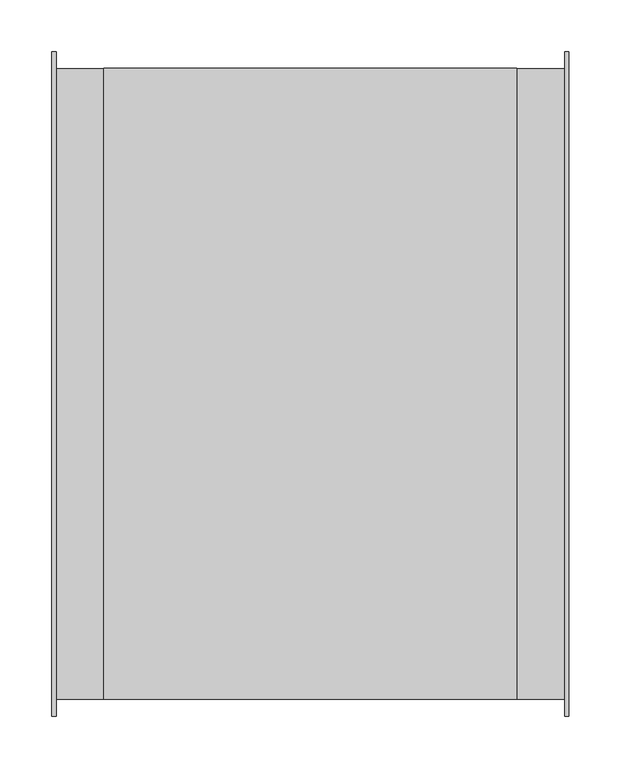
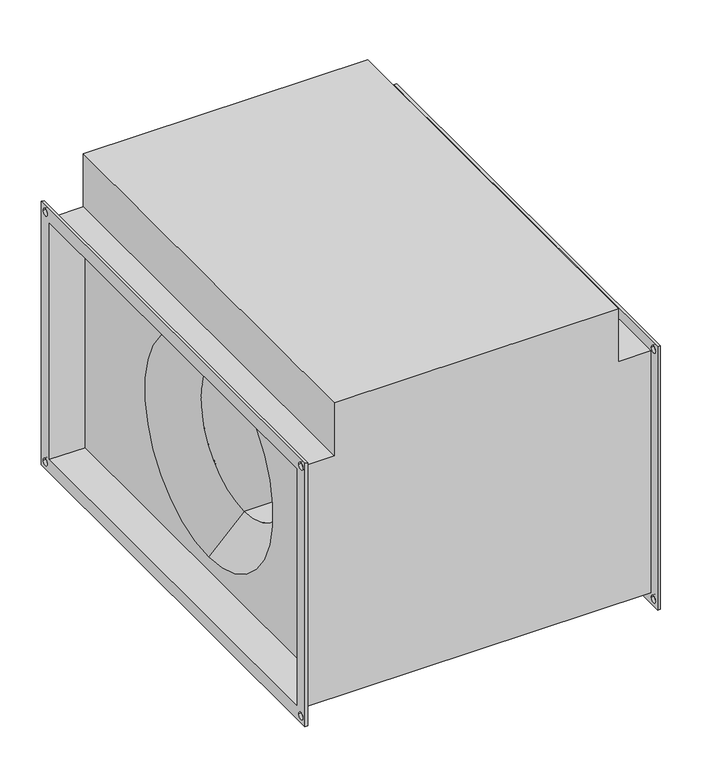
"""IFC4 building model written with IfcOpenShell, lengths in millimetres: proxy geometry, СВ_Вентилятор_КанальныйПрямоугольный_200-1000_SVPS : SVPS-600x350/31.2D."""

from ifc_helpers import new_model, si_unit, frame, origin, place, context, project, spatial, polyline, circle_curve, source, transform, mapped, element, save
from ifc_brep_helpers import plane_surface, revolved_surface, advanced_brep


def mechanical_equipment_56067d51(model_context):
    return source(origin(), model_context, "Body", "AdvancedBrep", [
        advanced_brep(
        [(-245.0, -304.0, 179.0), (-199.0, -304.0, 179.0), (-199.0, 304.0, 179.0), (-245.0, 304.0, 179.0), (199.0, 304.0, 258.0), (199.0, -304.0, 258.0), (199.0, -304.0, 179.0), (199.0, 304.0, 179.0), (199.0, 300.0, -175.0), (199.0, 300.0, 175.0), (199.0, -300.0, 175.0), (199.0, -300.0, -175.0), (199.0, 0.0, 155.0), (199.0, 0.0, -155.0), (-199.0, 300.0, 175.0), (-199.0, 300.0, -175.0), (-199.0, -300.0, -175.0), (-199.0, -300.0, 175.0), (-199.0, 0.0, -155.0), (-199.0, 0.0, 155.0), (-199.0, -304.0, 258.0), (-199.0, 304.0, 258.0), (-245.0, -304.0, -179.0), (245.0, -304.0, -179.0), (245.0, -304.0, 179.0), (-245.0, 304.0, -179.0), (245.0, 304.0, -179.0), (245.0, 304.0, 179.0), (149.0, 0.0, -105.0), (149.0, 0.0, 105.0), (-149.0, 0.0, 105.0), (-149.0, 0.0, -105.0), (-249.0, -320.0, 195.0), (-249.0, 320.0, 195.0), (-249.0, 320.0, -195.0), (-249.0, -320.0, -195.0), (-249.0, -300.0, 175.0), (-249.0, -300.0, -175.0), (-249.0, 300.0, -175.0), (-249.0, 300.0, 175.0), (-249.0, 305.0, 185.0), (-249.0, 315.0, 185.0), (-249.0, -315.0, 185.0), (-249.0, -305.0, 185.0), (-249.0, -315.0, -185.0), (-249.0, -305.0, -185.0), (-249.0, 305.0, -185.0), (-249.0, 315.0, -185.0), (-245.0, -320.0, 195.0), (-245.0, -320.0, -195.0), (-245.0, 320.0, -195.0), (-245.0, 320.0, 195.0), (-245.0, 315.0, 185.0), (-245.0, 305.0, 185.0), (-245.0, -305.0, 185.0), (-245.0, -315.0, 185.0), (-245.0, -305.0, -185.0), (-245.0, -315.0, -185.0), (-245.0, 315.0, -185.0), (-245.0, 305.0, -185.0), (245.0, 320.0, 195.0), (245.0, 320.0, -195.0), (245.0, -320.0, -195.0), (245.0, -320.0, 195.0), (245.0, 305.0, 185.0), (245.0, 315.0, 185.0), (245.0, -315.0, 185.0), (245.0, -305.0, 185.0), (245.0, -315.0, -185.0), (245.0, -305.0, -185.0), (245.0, 305.0, -185.0), (245.0, 315.0, -185.0), (249.0, 320.0, 195.0), (249.0, -320.0, 195.0), (249.0, -320.0, -195.0), (249.0, 320.0, -195.0), (249.0, 300.0, 175.0), (249.0, 300.0, -175.0), (249.0, -300.0, -175.0), (249.0, -300.0, 175.0), (249.0, 315.0, 185.0), (249.0, 305.0, 185.0), (249.0, -305.0, 185.0), (249.0, -315.0, 185.0), (249.0, -305.0, -185.0), (249.0, -315.0, -185.0), (249.0, 315.0, -185.0), (249.0, 305.0, -185.0)],
        [
            (0, 1),
            (1, 2),
            (2, 3),
            (3, 0),
            (4, 5),
            (5, 6),
            (6, 7),
            (7, 4),
            (8, 9),
            (9, 10),
            (10, 11),
            (11, 8),
            (12, 13, circle_curve(frame((199.0, 0.0, 0.0), z_axis=(-1.0, 0.0, 0.0), x_axis=(0.0, 0.0, 1.0)), 155.0)),
            (13, 12, circle_curve(frame((199.0, 0.0, 0.0), z_axis=(-1.0, 0.0, 0.0), x_axis=(0.0, 0.0, 1.0)), 155.0)),
            (14, 15),
            (15, 16),
            (16, 17),
            (17, 14),
            (18, 19, circle_curve(frame((-199.0, 0.0, 0.0), z_axis=(1.0, 0.0, 0.0), x_axis=(0.0, 0.0, 1.0)), 155.0)),
            (19, 18, circle_curve(frame((-199.0, 0.0, 0.0), z_axis=(1.0, 0.0, 0.0), x_axis=(0.0, 0.0, 1.0)), 155.0)),
            (20, 21),
            (21, 2),
            (1, 20),
            (5, 20),
            (0, 22),
            (22, 23),
            (23, 24),
            (24, 6),
            (22, 25),
            (25, 26),
            (26, 23),
            (21, 4),
            (7, 27),
            (27, 26),
            (25, 3),
            (24, 27),
            (28, 13),
            (12, 29),
            (29, 28, circle_curve(frame((149.0, 0.0, 0.0), z_axis=(-1.0, 0.0, 0.0), x_axis=(0.0, 0.0, 1.0)), 105.0)),
            (28, 29, circle_curve(frame((149.0, 0.0, 0.0), z_axis=(-1.0, 0.0, 0.0), x_axis=(0.0, 0.0, 1.0)), 105.0)),
            (29, 30),
            (30, 31, circle_curve(frame((-149.0, 0.0, 0.0), z_axis=(-1.0, 0.0, 0.0), x_axis=(0.0, 0.0, 1.0)), 105.0)),
            (31, 28),
            (31, 30, circle_curve(frame((-149.0, 0.0, 0.0), z_axis=(-1.0, 0.0, 0.0), x_axis=(0.0, 0.0, 1.0)), 105.0)),
            (30, 19),
            (18, 31),
            (32, 33),
            (33, 34),
            (34, 35),
            (35, 32),
            (36, 37),
            (37, 38),
            (38, 39),
            (39, 36),
            (40, 41, circle_curve(frame((-249.0, 310.0, 185.0), z_axis=(1.0, 0.0, 0.0), x_axis=(0.0, 1.0, 0.0)), 5.0)),
            (41, 40, circle_curve(frame((-249.0, 310.0, 185.0), z_axis=(1.0, 0.0, 0.0), x_axis=(0.0, 1.0, 0.0)), 5.0)),
            (42, 43, circle_curve(frame((-249.0, -310.0, 185.0), z_axis=(1.0, 0.0, 0.0), x_axis=(0.0, 1.0, 0.0)), 5.0)),
            (43, 42, circle_curve(frame((-249.0, -310.0, 185.0), z_axis=(1.0, 0.0, 0.0), x_axis=(0.0, 1.0, 0.0)), 5.0)),
            (44, 45, circle_curve(frame((-249.0, -310.0, -185.0), z_axis=(1.0, 0.0, 0.0), x_axis=(0.0, 1.0, 0.0)), 5.0)),
            (45, 44, circle_curve(frame((-249.0, -310.0, -185.0), z_axis=(1.0, 0.0, 0.0), x_axis=(0.0, 1.0, 0.0)), 5.0)),
            (46, 47, circle_curve(frame((-249.0, 310.0, -185.0), z_axis=(1.0, 0.0, 0.0), x_axis=(0.0, 1.0, 0.0)), 5.0)),
            (47, 46, circle_curve(frame((-249.0, 310.0, -185.0), z_axis=(1.0, 0.0, 0.0), x_axis=(0.0, 1.0, 0.0)), 5.0)),
            (48, 49),
            (49, 50),
            (50, 51),
            (51, 48),
            (52, 53, circle_curve(frame((-245.0, 310.0, 185.0), z_axis=(-1.0, 0.0, 0.0), x_axis=(0.0, 1.0, 0.0)), 5.0)),
            (53, 52, circle_curve(frame((-245.0, 310.0, 185.0), z_axis=(-1.0, 0.0, 0.0), x_axis=(0.0, 1.0, 0.0)), 5.0)),
            (54, 55, circle_curve(frame((-245.0, -310.0, 185.0), z_axis=(-1.0, 0.0, 0.0), x_axis=(0.0, 1.0, 0.0)), 5.0)),
            (55, 54, circle_curve(frame((-245.0, -310.0, 185.0), z_axis=(-1.0, 0.0, 0.0), x_axis=(0.0, 1.0, 0.0)), 5.0)),
            (56, 57, circle_curve(frame((-245.0, -310.0, -185.0), z_axis=(-1.0, 0.0, 0.0), x_axis=(0.0, 1.0, 0.0)), 5.0)),
            (57, 56, circle_curve(frame((-245.0, -310.0, -185.0), z_axis=(-1.0, 0.0, 0.0), x_axis=(0.0, 1.0, 0.0)), 5.0)),
            (58, 59, circle_curve(frame((-245.0, 310.0, -185.0), z_axis=(-1.0, 0.0, 0.0), x_axis=(0.0, 1.0, 0.0)), 5.0)),
            (59, 58, circle_curve(frame((-245.0, 310.0, -185.0), z_axis=(-1.0, 0.0, 0.0), x_axis=(0.0, 1.0, 0.0)), 5.0)),
            (35, 49),
            (48, 32),
            (34, 50),
            (33, 51),
            (60, 61),
            (61, 62),
            (62, 63),
            (63, 60),
            (64, 65, circle_curve(frame((245.0, 310.0, 185.0), z_axis=(1.0, 0.0, 0.0), x_axis=(0.0, 1.0, 0.0)), 5.0)),
            (65, 64, circle_curve(frame((245.0, 310.0, 185.0), z_axis=(1.0, 0.0, 0.0), x_axis=(0.0, 1.0, 0.0)), 5.0)),
            (66, 67, circle_curve(frame((245.0, -310.0, 185.0), z_axis=(1.0, 0.0, 0.0), x_axis=(0.0, 1.0, 0.0)), 5.0)),
            (67, 66, circle_curve(frame((245.0, -310.0, 185.0), z_axis=(1.0, 0.0, 0.0), x_axis=(0.0, 1.0, 0.0)), 5.0)),
            (68, 69, circle_curve(frame((245.0, -310.0, -185.0), z_axis=(1.0, 0.0, 0.0), x_axis=(0.0, 1.0, 0.0)), 5.0)),
            (69, 68, circle_curve(frame((245.0, -310.0, -185.0), z_axis=(1.0, 0.0, 0.0), x_axis=(0.0, 1.0, 0.0)), 5.0)),
            (70, 71, circle_curve(frame((245.0, 310.0, -185.0), z_axis=(1.0, 0.0, 0.0), x_axis=(0.0, 1.0, 0.0)), 5.0)),
            (71, 70, circle_curve(frame((245.0, 310.0, -185.0), z_axis=(1.0, 0.0, 0.0), x_axis=(0.0, 1.0, 0.0)), 5.0)),
            (72, 73),
            (73, 74),
            (74, 75),
            (75, 72),
            (76, 77),
            (77, 78),
            (78, 79),
            (79, 76),
            (80, 81, circle_curve(frame((249.0, 310.0, 185.0), z_axis=(-1.0, 0.0, 0.0), x_axis=(0.0, 1.0, 0.0)), 5.0)),
            (81, 80, circle_curve(frame((249.0, 310.0, 185.0), z_axis=(-1.0, 0.0, 0.0), x_axis=(0.0, 1.0, 0.0)), 5.0)),
            (82, 83, circle_curve(frame((249.0, -310.0, 185.0), z_axis=(-1.0, 0.0, 0.0), x_axis=(0.0, 1.0, 0.0)), 5.0)),
            (83, 82, circle_curve(frame((249.0, -310.0, 185.0), z_axis=(-1.0, 0.0, 0.0), x_axis=(0.0, 1.0, 0.0)), 5.0)),
            (84, 85, circle_curve(frame((249.0, -310.0, -185.0), z_axis=(-1.0, 0.0, 0.0), x_axis=(0.0, 1.0, 0.0)), 5.0)),
            (85, 84, circle_curve(frame((249.0, -310.0, -185.0), z_axis=(-1.0, 0.0, 0.0), x_axis=(0.0, 1.0, 0.0)), 5.0)),
            (86, 87, circle_curve(frame((249.0, 310.0, -185.0), z_axis=(-1.0, 0.0, 0.0), x_axis=(0.0, 1.0, 0.0)), 5.0)),
            (87, 86, circle_curve(frame((249.0, 310.0, -185.0), z_axis=(-1.0, 0.0, 0.0), x_axis=(0.0, 1.0, 0.0)), 5.0)),
            (63, 73),
            (72, 60),
            (62, 74),
            (61, 75),
            (39, 14),
            (17, 36),
            (38, 15),
            (37, 16),
            (76, 9),
            (8, 77),
            (11, 78),
            (10, 79),
            (40, 53),
            (52, 41),
            (64, 81),
            (80, 65),
            (42, 55),
            (54, 43),
            (66, 83),
            (82, 67),
            (44, 57),
            (56, 45),
            (68, 85),
            (84, 69),
            (46, 59),
            (58, 47),
            (70, 87),
            (86, 71),
        ],
        [
            plane_surface(frame((-199.0, 304.0, 179.0), z_axis=(0.0, 0.0, 1.0), x_axis=(-1.0, 0.0, 0.0))),
            plane_surface(frame((199.0, -304.0, 258.0), z_axis=(1.0, 0.0, 0.0), x_axis=(0.0, 0.0, -1.0))),
            plane_surface(frame((-199.0, -304.0, 258.0), z_axis=(-1.0, 0.0, 0.0), x_axis=(0.0, 0.0, 1.0))),
            plane_surface(frame((199.0, -304.0, 258.0), z_axis=(0.0, -1.0, 0.0), x_axis=(-1.0, 0.0, 0.0))),
            plane_surface(frame((199.0, -304.0, -179.0), z_axis=(0.0, 0.0, -1.0), x_axis=(-1.0, 0.0, 0.0))),
            plane_surface(frame((199.0, 304.0, -179.0), z_axis=(0.0, 1.0, 0.0), x_axis=(-1.0, 0.0, 0.0))),
            plane_surface(frame((199.0, 304.0, 258.0), z_axis=(0.0, 0.0, 1.0), x_axis=(-1.0, 0.0, 0.0))),
            plane_surface(frame((245.0, 304.0, 179.0), z_axis=(0.0, 0.0, 1.0), x_axis=(-1.0, 0.0, 0.0))),
            revolved_surface(polyline([(149.0, 0.0, 105.0), (199.0, 0.0, 155.0)]), (-636.0617897, 0.0, 0.0), (-1.0, 0.0, 0.0)),
            revolved_surface(polyline([(-149.0, 0.0, 105.0), (149.0, 0.0, 105.0)]), (-636.0617897, 0.0, 0.0), (-1.0, 0.0, 0.0)),
            revolved_surface(polyline([(-199.0, 0.0, 155.0), (-149.0, 0.0, 105.0)]), (-636.0617897, 0.0, 0.0), (-1.0, 0.0, 0.0)),
            plane_surface(frame((-249.0, -320.0, 195.0), z_axis=(-1.0, 0.0, 0.0), x_axis=(0.0, 0.0, 1.0))),
            plane_surface(frame((-245.0, -320.0, 195.0), z_axis=(1.0, 0.0, 0.0), x_axis=(0.0, 0.0, -1.0))),
            plane_surface(frame((-245.0, -320.0, 195.0), z_axis=(0.0, -1.0, 0.0), x_axis=(-1.0, 0.0, 0.0))),
            plane_surface(frame((-245.0, -320.0, -195.0), z_axis=(0.0, 0.0, -1.0), x_axis=(-1.0, 0.0, 0.0))),
            plane_surface(frame((-245.0, 320.0, -195.0), z_axis=(0.0, 1.0, 0.0), x_axis=(-1.0, 0.0, 0.0))),
            plane_surface(frame((-245.0, 320.0, 195.0), z_axis=(0.0, 0.0, 1.0), x_axis=(-1.0, 0.0, 0.0))),
            plane_surface(frame((245.0, 300.0, -175.0), z_axis=(-1.0, 0.0, 0.0), x_axis=(0.0, 0.0, 1.0))),
            plane_surface(frame((249.0, 300.0, -175.0), z_axis=(1.0, 0.0, 0.0), x_axis=(0.0, 0.0, -1.0))),
            plane_surface(frame((249.0, 320.0, 195.0), z_axis=(0.0, 0.0, 1.0), x_axis=(-1.0, 0.0, 0.0))),
            plane_surface(frame((249.0, -320.0, 195.0), z_axis=(0.0, -1.0, 0.0), x_axis=(-1.0, 0.0, 0.0))),
            plane_surface(frame((249.0, -320.0, -195.0), z_axis=(0.0, 0.0, -1.0), x_axis=(-1.0, 0.0, 0.0))),
            plane_surface(frame((249.0, 320.0, -195.0), z_axis=(0.0, 1.0, 0.0), x_axis=(-1.0, 0.0, 0.0))),
            plane_surface(frame((-245.0, -300.0, 175.0), z_axis=(0.0, 0.0, -1.0), x_axis=(-1.0, 0.0, 0.0))),
            plane_surface(frame((-245.0, 300.0, 175.0), z_axis=(0.0, -1.0, 0.0), x_axis=(-1.0, 0.0, 0.0))),
            plane_surface(frame((-245.0, 300.0, -175.0), z_axis=(0.0, 0.0, 1.0), x_axis=(-1.0, 0.0, 0.0))),
            plane_surface(frame((-245.0, -300.0, -175.0), z_axis=(0.0, 1.0, 0.0), x_axis=(-1.0, 0.0, 0.0))),
            plane_surface(frame((249.0, 300.0, 175.0), z_axis=(0.0, -1.0, 0.0), x_axis=(-1.0, 0.0, 0.0))),
            plane_surface(frame((249.0, 300.0, -175.0), z_axis=(0.0, 0.0, 1.0), x_axis=(-1.0, 0.0, 0.0))),
            plane_surface(frame((249.0, -300.0, -175.0), z_axis=(0.0, 1.0, 0.0), x_axis=(-1.0, 0.0, 0.0))),
            plane_surface(frame((249.0, -300.0, 175.0), z_axis=(0.0, 0.0, -1.0), x_axis=(-1.0, 0.0, 0.0))),
            revolved_surface(polyline([(-245.0, 315.0, 185.0), (-249.0, 315.0, 185.0)]), (-249.0, 310.0, 185.0), (1.0, 0.0, 0.0)),
            revolved_surface(polyline([(249.0, 315.0, 185.0), (245.0, 315.0, 185.0)]), (-249.0, 310.0, 185.0), (1.0, 0.0, 0.0)),
            revolved_surface(polyline([(-245.0, -305.0, 185.0), (-249.0, -305.0, 185.0)]), (0.0, -310.0, 185.0), (1.0, 0.0, 0.0)),
            revolved_surface(polyline([(249.0, -305.0, 185.0), (245.0, -305.0, 185.0)]), (0.0, -310.0, 185.0), (1.0, 0.0, 0.0)),
            revolved_surface(polyline([(-245.0, -305.0, -185.0), (-249.0, -305.0, -185.0)]), (0.0, -310.0, -185.0), (1.0, 0.0, 0.0)),
            revolved_surface(polyline([(249.0, -305.0, -185.0), (245.0, -305.0, -185.0)]), (0.0, -310.0, -185.0), (1.0, 0.0, 0.0)),
            revolved_surface(polyline([(-245.0, 315.0, -185.0), (-249.0, 315.0, -185.0)]), (0.0, 310.0, -185.0), (1.0, 0.0, 0.0)),
            revolved_surface(polyline([(249.0, 315.0, -185.0), (245.0, 315.0, -185.0)]), (0.0, 310.0, -185.0), (1.0, 0.0, 0.0)),
        ],
        [
            (0, [[1, 2, 3, 4]]),
            (1, [[5, 6, 7, 8]]),
            (1, [[9, 10, 11, 12], [13, 14]]),
            (2, [[15, 16, 17, 18], [19, 20]]),
            (2, [[21, 22, -2, 23]]),
            (3, [[24, -23, -1, 25, 26, 27, 28, -6]]),
            (4, [[-26, 29, 30, 31]]),
            (5, [[32, -8, 33, 34, -30, 35, -3, -22]]),
            (6, [[-5, -32, -21, -24]]),
            (7, [[-28, 36, -33, -7]]),
            (8, [[37, -13, 38, 39]]),
            (8, [[-37, 40, -38, -14]]),
            (9, [[-39, 41, 42, 43]]),
            (9, [[-40, -43, 44, -41]]),
            (10, [[-42, 45, -19, 46]]),
            (10, [[-44, -46, -20, -45]]),
            (11, [[47, 48, 49, 50], [51, 52, 53, 54], [55, 56], [57, 58], [59, 60], [61, 62]]),
            (12, [[63, 64, 65, 66], [-25, -4, -35, -29], [67, 68], [69, 70], [71, 72], [73, 74]]),
            (13, [[-50, 75, -63, 76]]),
            (14, [[-49, 77, -64, -75]]),
            (15, [[-48, 78, -65, -77]]),
            (16, [[-47, -76, -66, -78]]),
            (17, [[79, 80, 81, 82], [-27, -31, -34, -36], [83, 84], [85, 86], [87, 88], [89, 90]]),
            (18, [[91, 92, 93, 94], [95, 96, 97, 98], [99, 100], [101, 102], [103, 104], [105, 106]]),
            (19, [[-82, 107, -91, 108]]),
            (20, [[-81, 109, -92, -107]]),
            (21, [[-80, 110, -93, -109]]),
            (22, [[-79, -108, -94, -110]]),
            (23, [[-54, 111, -18, 112]]),
            (24, [[-53, 113, -15, -111]]),
            (25, [[-52, 114, -16, -113]]),
            (26, [[-51, -112, -17, -114]]),
            (27, [[-95, 115, -9, 116]]),
            (28, [[-96, -116, -12, 117]]),
            (29, [[-97, -117, -11, 118]]),
            (30, [[-115, -98, -118, -10]]),
            (31, [[119, -67, 120, -55]]),
            (32, [[121, -99, 122, -83]]),
            (31, [[-119, -56, -120, -68]]),
            (32, [[-121, -84, -122, -100]]),
            (33, [[123, -69, 124, -57]]),
            (34, [[125, -101, 126, -85]]),
            (33, [[-123, -58, -124, -70]]),
            (34, [[-125, -86, -126, -102]]),
            (35, [[127, -71, 128, -59]]),
            (36, [[129, -103, 130, -87]]),
            (35, [[-127, -60, -128, -72]]),
            (36, [[-129, -88, -130, -104]]),
            (37, [[131, -73, 132, -61]]),
            (38, [[133, -105, 134, -89]]),
            (37, [[-131, -62, -132, -74]]),
            (38, [[-133, -90, -134, -106]]),
        ],
    ),
    ])


if __name__ == "__main__":
    model = new_model("IFC4")
    model_context = context("Model", 3, world=origin())
    ifc_project = project(units=[si_unit("LENGTHUNIT", "METRE", prefix="MILLI")], contexts=[model_context])
    site = spatial("IfcSite", under=ifc_project)
    building = spatial("IfcBuilding", under=site)
    placement = place(None, origin())
    mechanical_equipment_shape = mechanical_equipment_56067d51(model_context)
    element("IfcBuildingElementProxy", 1, Name="СВ_Вентилятор_КанальныйПрямоугольный_200-1000_SVPS : SVPS-600x350/31.2D", ObjectType="СВ_Вентилятор_КанальныйПрямоугольный_200-1000_SVPS : SVPS-600x350/31.2D", at=placement, inside=building, context=model_context, shape_type="MappedRepresentation", body=[
        mapped(mechanical_equipment_shape, transform((0.0, 0.0, 0.0), x_axis=(1.0, 0.0, 0.0), y_axis=(0.0, 1.0, 0.0), z_axis=(0.0, 0.0, 1.0))),
    ])
    save(model, "model.ifc")
